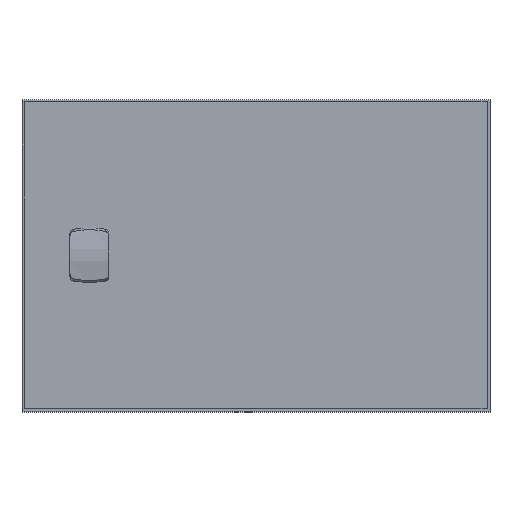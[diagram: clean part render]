
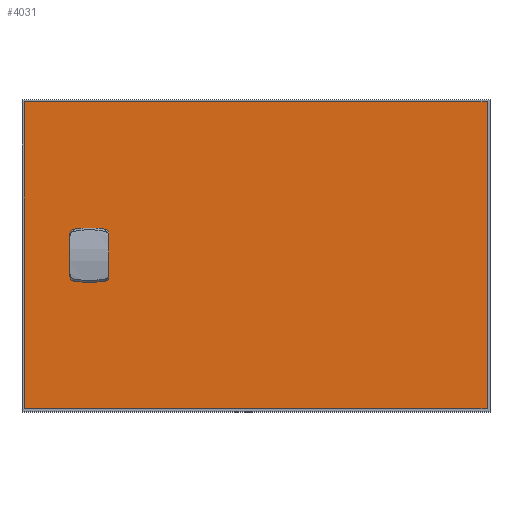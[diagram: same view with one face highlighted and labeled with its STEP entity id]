
A CAD part, top view. The second image highlights one B-rep face of the part: STEP entity #4031.
In plain terms, the highlighted planar face has unit normal (0, 0, 1).
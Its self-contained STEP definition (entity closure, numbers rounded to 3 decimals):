
#212=CIRCLE('',#4825,11.3);
#213=CIRCLE('',#4826,11.3);
#214=CIRCLE('',#4827,1.25);
#215=CIRCLE('',#4828,11.3);
#216=CIRCLE('',#4829,11.3);
#217=CIRCLE('',#4830,1.25);
#656=ORIENTED_EDGE('',*,*,#1584,.F.);
#657=ORIENTED_EDGE('',*,*,#1585,.F.);
#658=ORIENTED_EDGE('',*,*,#1586,.F.);
#659=ORIENTED_EDGE('',*,*,#1587,.F.);
#660=ORIENTED_EDGE('',*,*,#1588,.F.);
#661=ORIENTED_EDGE('',*,*,#1589,.F.);
#662=ORIENTED_EDGE('',*,*,#1590,.F.);
#663=ORIENTED_EDGE('',*,*,#1591,.F.);
#664=ORIENTED_EDGE('',*,*,#1592,.F.);
#665=ORIENTED_EDGE('',*,*,#1593,.F.);
#666=ORIENTED_EDGE('',*,*,#1594,.F.);
#667=ORIENTED_EDGE('',*,*,#1595,.F.);
#668=ORIENTED_EDGE('',*,*,#1596,.F.);
#669=ORIENTED_EDGE('',*,*,#1597,.F.);
#670=ORIENTED_EDGE('',*,*,#1598,.F.);
#671=ORIENTED_EDGE('',*,*,#1599,.F.);
#672=ORIENTED_EDGE('',*,*,#1600,.T.);
#673=ORIENTED_EDGE('',*,*,#1601,.F.);
#674=ORIENTED_EDGE('',*,*,#1602,.F.);
#675=ORIENTED_EDGE('',*,*,#1582,.T.);
#1582=EDGE_CURVE('',#2084,#2083,#2450,.T.);
#1584=EDGE_CURVE('',#2085,#2086,#212,.T.);
#1585=EDGE_CURVE('',#2087,#2085,#2452,.T.);
#1586=EDGE_CURVE('',#2088,#2087,#213,.T.);
#1587=EDGE_CURVE('',#2089,#2088,#2453,.T.);
#1588=EDGE_CURVE('',#2090,#2089,#2454,.T.);
#1589=EDGE_CURVE('',#2091,#2090,#214,.T.);
#1590=EDGE_CURVE('',#2092,#2091,#2455,.T.);
#1591=EDGE_CURVE('',#2093,#2092,#2456,.T.);
#1592=EDGE_CURVE('',#2094,#2093,#215,.T.);
#1593=EDGE_CURVE('',#2095,#2094,#2457,.T.);
#1594=EDGE_CURVE('',#2096,#2095,#216,.T.);
#1595=EDGE_CURVE('',#2097,#2096,#2458,.T.);
#1596=EDGE_CURVE('',#2098,#2097,#2459,.T.);
#1597=EDGE_CURVE('',#2099,#2098,#217,.T.);
#1598=EDGE_CURVE('',#2100,#2099,#2460,.T.);
#1599=EDGE_CURVE('',#2086,#2100,#2461,.T.);
#1600=EDGE_CURVE('',#2083,#2101,#2462,.T.);
#1601=EDGE_CURVE('',#2102,#2101,#2463,.T.);
#1602=EDGE_CURVE('',#2084,#2102,#2464,.T.);
#2083=VERTEX_POINT('',#6699);
#2084=VERTEX_POINT('',#6701);
#2085=VERTEX_POINT('',#6705);
#2086=VERTEX_POINT('',#6706);
#2087=VERTEX_POINT('',#6708);
#2088=VERTEX_POINT('',#6710);
#2089=VERTEX_POINT('',#6712);
#2090=VERTEX_POINT('',#6714);
#2091=VERTEX_POINT('',#6716);
#2092=VERTEX_POINT('',#6718);
#2093=VERTEX_POINT('',#6720);
#2094=VERTEX_POINT('',#6722);
#2095=VERTEX_POINT('',#6724);
#2096=VERTEX_POINT('',#6726);
#2097=VERTEX_POINT('',#6728);
#2098=VERTEX_POINT('',#6730);
#2099=VERTEX_POINT('',#6732);
#2100=VERTEX_POINT('',#6734);
#2101=VERTEX_POINT('',#6737);
#2102=VERTEX_POINT('',#6739);
#2450=LINE('',#6700,#2839);
#2452=LINE('',#6707,#2841);
#2453=LINE('',#6711,#2842);
#2454=LINE('',#6713,#2843);
#2455=LINE('',#6717,#2844);
#2456=LINE('',#6719,#2845);
#2457=LINE('',#6723,#2846);
#2458=LINE('',#6727,#2847);
#2459=LINE('',#6729,#2848);
#2460=LINE('',#6733,#2849);
#2461=LINE('',#6735,#2850);
#2462=LINE('',#6736,#2851);
#2463=LINE('',#6738,#2852);
#2464=LINE('',#6740,#2853);
#2839=VECTOR('',#5526,1000.);
#2841=VECTOR('',#5532,1000.);
#2842=VECTOR('',#5535,1000.);
#2843=VECTOR('',#5536,1000.);
#2844=VECTOR('',#5539,1000.);
#2845=VECTOR('',#5540,1000.);
#2846=VECTOR('',#5543,1000.);
#2847=VECTOR('',#5546,1000.);
#2848=VECTOR('',#5547,1000.);
#2849=VECTOR('',#5550,1000.);
#2850=VECTOR('',#5551,1000.);
#2851=VECTOR('',#5552,1000.);
#2852=VECTOR('',#5553,1000.);
#2853=VECTOR('',#5554,1000.);
#3245=EDGE_LOOP('',(#656,#657,#658,#659,#660,#661,#662,#663,#664,#665,#666,
#667,#668,#669,#670,#671));
#3246=EDGE_LOOP('',(#672,#673,#674,#675));
#3578=FACE_BOUND('',#3245,.T.);
#3579=FACE_BOUND('',#3246,.T.);
#3826=PLANE('',#4824);
#4031=ADVANCED_FACE('',(#3578,#3579),#3826,.F.);
#4824=AXIS2_PLACEMENT_3D('',#6703,#5528,#5529);
#4825=AXIS2_PLACEMENT_3D('',#6704,#5530,#5531);
#4826=AXIS2_PLACEMENT_3D('',#6709,#5533,#5534);
#4827=AXIS2_PLACEMENT_3D('',#6715,#5537,#5538);
#4828=AXIS2_PLACEMENT_3D('',#6721,#5541,#5542);
#4829=AXIS2_PLACEMENT_3D('',#6725,#5544,#5545);
#4830=AXIS2_PLACEMENT_3D('',#6731,#5548,#5549);
#5526=DIRECTION('',(0.,-1.,0.));
#5528=DIRECTION('',(0.,0.,-1.));
#5529=DIRECTION('',(-1.,0.,0.));
#5530=DIRECTION('',(0.,0.,1.));
#5531=DIRECTION('',(1.,0.,0.));
#5532=DIRECTION('',(0.,-1.,0.));
#5533=DIRECTION('',(0.,0.,1.));
#5534=DIRECTION('',(1.,0.,0.));
#5535=DIRECTION('',(-1.,0.,0.));
#5536=DIRECTION('',(0.,-1.,0.));
#5537=DIRECTION('',(0.,0.,1.));
#5538=DIRECTION('',(1.,0.,0.));
#5539=DIRECTION('',(0.,1.,0.));
#5540=DIRECTION('',(-1.,0.,0.));
#5541=DIRECTION('',(0.,0.,1.));
#5542=DIRECTION('',(1.,0.,0.));
#5543=DIRECTION('',(0.,1.,0.));
#5544=DIRECTION('',(0.,0.,1.));
#5545=DIRECTION('',(1.,0.,0.));
#5546=DIRECTION('',(1.,0.,0.));
#5547=DIRECTION('',(0.,1.,0.));
#5548=DIRECTION('',(0.,0.,1.));
#5549=DIRECTION('',(1.,0.,0.));
#5550=DIRECTION('',(0.,-1.,0.));
#5551=DIRECTION('',(1.,0.,0.));
#5552=DIRECTION('',(1.,0.,0.));
#5553=DIRECTION('',(0.,-1.,0.));
#5554=DIRECTION('',(1.,0.,0.));
#6699=CARTESIAN_POINT('',(-178.,-118.,0.));
#6700=CARTESIAN_POINT('',(-178.,118.,0.));
#6701=CARTESIAN_POINT('',(-178.,118.,0.));
#6703=CARTESIAN_POINT('',(-178.,118.,0.));
#6704=CARTESIAN_POINT('',(-127.8,0.,0.));
#6705=CARTESIAN_POINT('',(-137.95,-4.967,0.));
#6706=CARTESIAN_POINT('',(-132.767,-10.15,0.));
#6707=CARTESIAN_POINT('',(-137.95,4.967,0.));
#6708=CARTESIAN_POINT('',(-137.95,4.967,0.));
#6709=CARTESIAN_POINT('',(-127.8,0.,0.));
#6710=CARTESIAN_POINT('',(-132.767,10.15,0.));
#6711=CARTESIAN_POINT('',(-129.05,10.15,0.));
#6712=CARTESIAN_POINT('',(-129.05,10.15,0.));
#6713=CARTESIAN_POINT('',(-129.05,10.75,0.));
#6714=CARTESIAN_POINT('',(-129.05,10.75,0.));
#6715=CARTESIAN_POINT('',(-127.8,10.75,0.));
#6716=CARTESIAN_POINT('',(-126.55,10.75,0.));
#6717=CARTESIAN_POINT('',(-126.55,10.15,0.));
#6718=CARTESIAN_POINT('',(-126.55,10.15,0.));
#6719=CARTESIAN_POINT('',(-122.833,10.15,0.));
#6720=CARTESIAN_POINT('',(-122.833,10.15,0.));
#6721=CARTESIAN_POINT('',(-127.8,0.,0.));
#6722=CARTESIAN_POINT('',(-117.65,4.967,0.));
#6723=CARTESIAN_POINT('',(-117.65,-4.967,0.));
#6724=CARTESIAN_POINT('',(-117.65,-4.967,0.));
#6725=CARTESIAN_POINT('',(-127.8,0.,0.));
#6726=CARTESIAN_POINT('',(-122.833,-10.15,0.));
#6727=CARTESIAN_POINT('',(-126.55,-10.15,0.));
#6728=CARTESIAN_POINT('',(-126.55,-10.15,0.));
#6729=CARTESIAN_POINT('',(-126.55,-10.75,0.));
#6730=CARTESIAN_POINT('',(-126.55,-10.75,0.));
#6731=CARTESIAN_POINT('',(-127.8,-10.75,0.));
#6732=CARTESIAN_POINT('',(-129.05,-10.75,0.));
#6733=CARTESIAN_POINT('',(-129.05,-10.15,0.));
#6734=CARTESIAN_POINT('',(-129.05,-10.15,0.));
#6735=CARTESIAN_POINT('',(-132.767,-10.15,0.));
#6736=CARTESIAN_POINT('',(-178.,-118.,0.));
#6737=CARTESIAN_POINT('',(178.,-118.,0.));
#6738=CARTESIAN_POINT('',(178.,118.,0.));
#6739=CARTESIAN_POINT('',(178.,118.,0.));
#6740=CARTESIAN_POINT('',(-178.,118.,0.));
